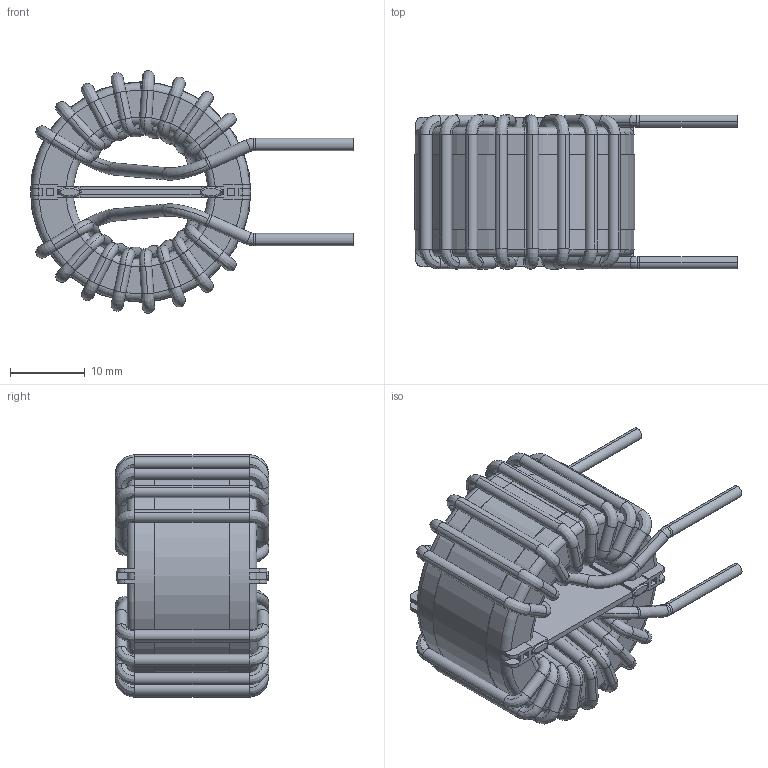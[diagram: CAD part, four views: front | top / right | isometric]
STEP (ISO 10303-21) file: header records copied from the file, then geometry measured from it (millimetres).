
FILE_DESCRIPTION (( 'STEP AP203' ), '1' );
FILE_NAME ('HN-V-552U-17A.STEP', '2020-06-30T13:38:48', ( 'Windows User' ), ( '' ), 'SwSTEP 2.0', 'SolidWorks 2015', '' );
FILE_SCHEMA (( 'CONFIG_CONTROL_DESIGN' ));
Length unit declared in the file: millimetre
Products named in the file (1): HN-V-552U-17A
Bounding box: 43.16 x 20.55 x 32.4 mm (x, y, z)
Volume: 9579.5 mm3; surface area: 11170.9 mm2
Topology: 13 solids, 13 shells, 543 faces, 1519 edges, 1004 vertices
Faces by surface type: cylinder 195, plane 132, bspline 116, torus 100
Entity records: 24909 total; most frequent: CARTESIAN_POINT 11150, ORIENTED_EDGE 3038, DIRECTION 2863, EDGE_CURVE 1519, AXIS2_PLACEMENT_3D 1168, VERTEX_POINT 1004, CIRCLE 740, EDGE_LOOP 549
